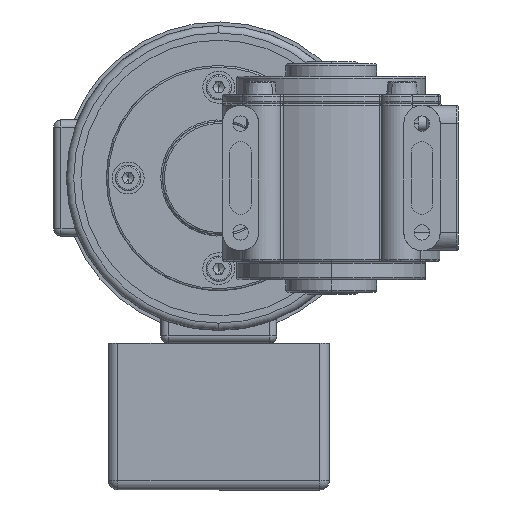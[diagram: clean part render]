
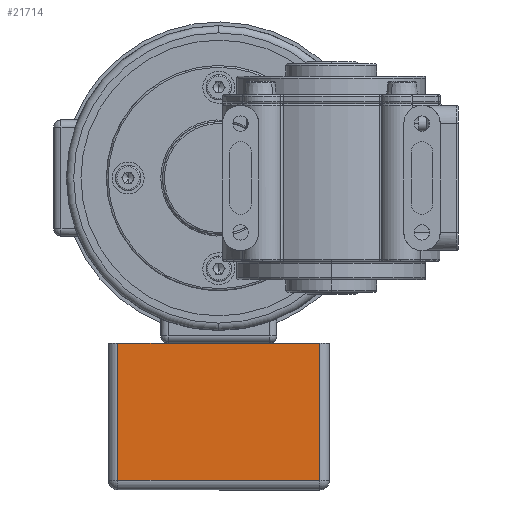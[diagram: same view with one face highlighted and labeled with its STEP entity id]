
A CAD part, left-side view. The second image highlights one B-rep face of the part: STEP entity #21714.
In plain terms, the highlighted planar face has unit normal (-1, 0, 0).
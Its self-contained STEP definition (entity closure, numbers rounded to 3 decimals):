
#229 = VERTEX_POINT ( 'NONE', #27747 ) ;
#1577 = CARTESIAN_POINT ( 'NONE',  ( -92.68, 52.979, -86. ) ) ;
#2734 = CARTESIAN_POINT ( 'NONE',  ( -92.68, 50.307, -86. ) ) ;
#4210 = CARTESIAN_POINT ( 'NONE',  ( -92.68, -5.349, -86. ) ) ;
#4670 = VERTEX_POINT ( 'NONE', #26786 ) ;
#5996 = CARTESIAN_POINT ( 'NONE',  ( -92.68, 50.307, -83.328 ) ) ;
#6286 = EDGE_CURVE ( 'NONE', #229, #20977, #21453, .T. ) ;
#6346 = AXIS2_PLACEMENT_3D ( 'NONE', #1577, #31526, #21400 ) ;
#7572 = ORIENTED_EDGE ( 'NONE', *, *, #14476, .T. ) ;
#11560 = FACE_OUTER_BOUND ( 'NONE', #14582, .T. ) ;
#14065 = DIRECTION ( 'NONE',  ( 0., 0., 1. ) ) ;
#14476 = EDGE_CURVE ( 'NONE', #14923, #229, #21349, .T. ) ;
#14582 = EDGE_LOOP ( 'NONE', ( #7572, #17731, #17755, #25218 ) ) ;
#14923 = VERTEX_POINT ( 'NONE', #5996 ) ;
#15022 = VECTOR ( 'NONE', #26286, 1000. ) ;
#16681 = CARTESIAN_POINT ( 'NONE',  ( -92.68, 52.979, -83.328 ) ) ;
#17731 = ORIENTED_EDGE ( 'NONE', *, *, #6286, .T. ) ;
#17755 = ORIENTED_EDGE ( 'NONE', *, *, #27886, .T. ) ;
#19087 = DIRECTION ( 'NONE',  ( 0., -1., 0. ) ) ;
#20977 = VERTEX_POINT ( 'NONE', #25161 ) ;
#21349 = LINE ( 'NONE', #16681, #30112 ) ;
#21400 = DIRECTION ( 'NONE',  ( 0., -1., 0. ) ) ;
#21453 = LINE ( 'NONE', #4210, #28894 ) ;
#21714 = ADVANCED_FACE ( 'NONE', ( #11560 ), #29219, .F. ) ;
#22564 = DIRECTION ( 'NONE',  ( 0., 0., -1. ) ) ;
#23669 = EDGE_CURVE ( 'NONE', #4670, #14923, #30205, .T. ) ;
#25161 = CARTESIAN_POINT ( 'NONE',  ( -92.68, -5.349, -45.5 ) ) ;
#25218 = ORIENTED_EDGE ( 'NONE', *, *, #23669, .T. ) ;
#26286 = DIRECTION ( 'NONE',  ( 0., 1., 0. ) ) ;
#26453 = CARTESIAN_POINT ( 'NONE',  ( -92.68, 52.979, -45.5 ) ) ;
#26786 = CARTESIAN_POINT ( 'NONE',  ( -92.68, 50.307, -45.5 ) ) ;
#27747 = CARTESIAN_POINT ( 'NONE',  ( -92.68, -5.349, -83.328 ) ) ;
#27886 = EDGE_CURVE ( 'NONE', #20977, #4670, #31354, .T. ) ;
#28206 = VECTOR ( 'NONE', #22564, 1000. ) ;
#28894 = VECTOR ( 'NONE', #14065, 1000. ) ;
#29219 = PLANE ( 'NONE',  #6346 ) ;
#30112 = VECTOR ( 'NONE', #19087, 1000. ) ;
#30205 = LINE ( 'NONE', #2734, #28206 ) ;
#31354 = LINE ( 'NONE', #26453, #15022 ) ;
#31526 = DIRECTION ( 'NONE',  ( 1., 0., 0. ) ) ;
